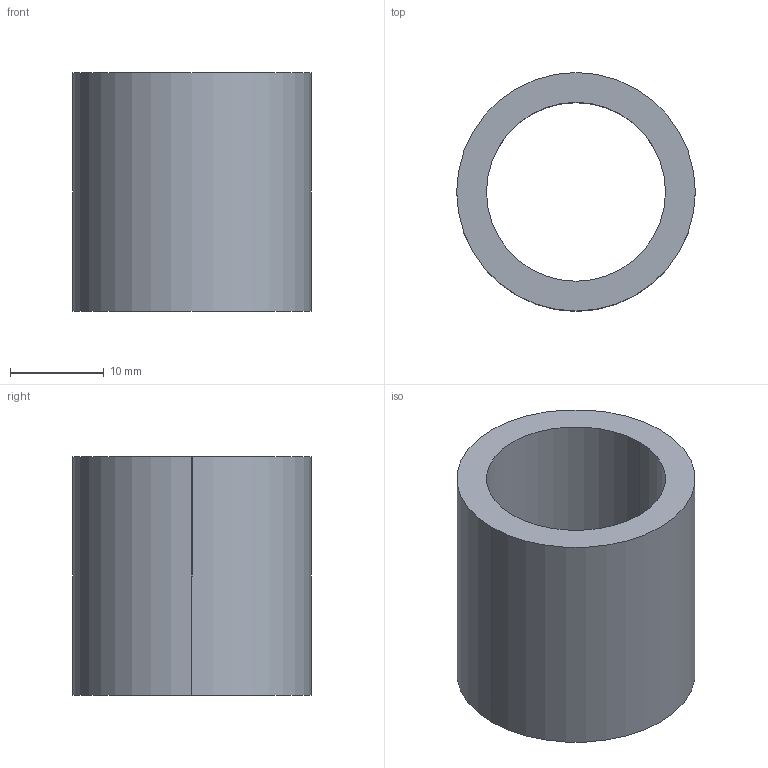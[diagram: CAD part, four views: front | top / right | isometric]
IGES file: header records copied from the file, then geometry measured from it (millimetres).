
Global section: file name: C:\Documents and Settings\Administrator\Desktop\Transfer Temp\tube1000x0750.igs; native system: AutoDesk Inventor R2.0 ; preprocessor: AutoDesk Inventor Iges Exporter R2.0; author: No Author specified; organization: No Organization specified; date: 20020121.083755; units: inch
Bounding box: 25.4 x 25.4 x 25.4 mm (x, y, z)
Surface area: 3990.3 mm2 (no closed solid volume)
Topology: 0 solids, 0 shells, 6 faces, 24 edges, 24 vertices
Faces by surface type: revolution 4, bspline 2
